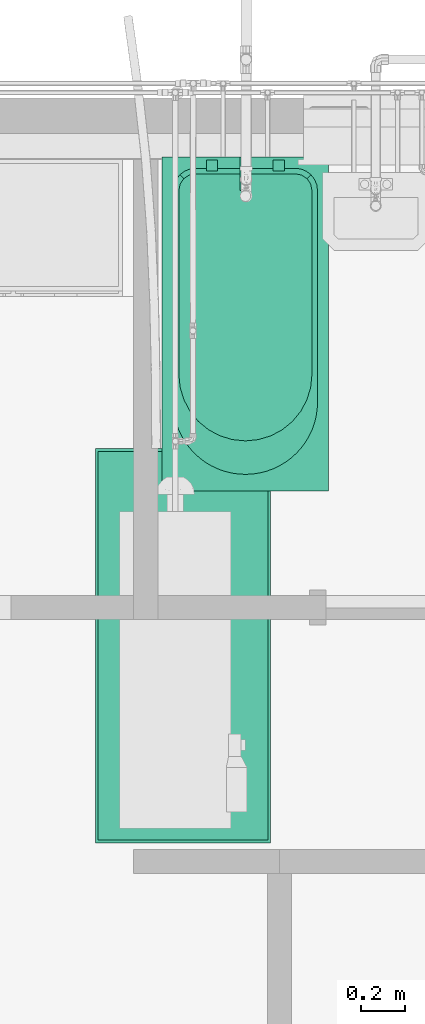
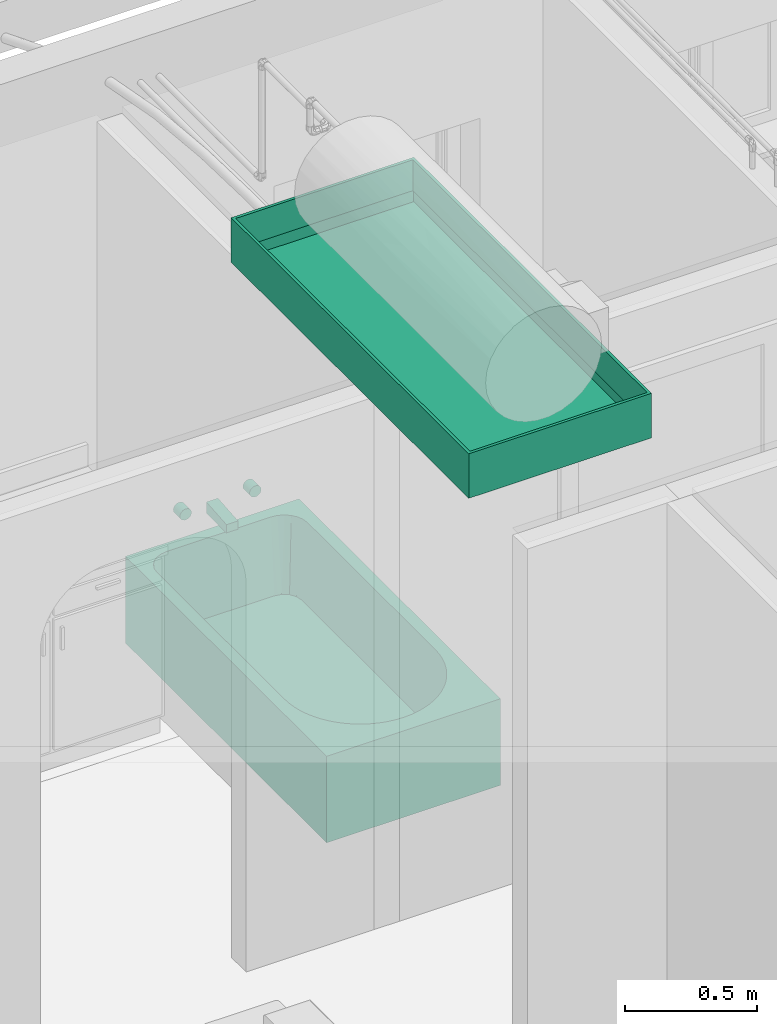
# One storey, part 31 of 41: 2 flow terminals.
"""IFC2X3 building model written with IfcOpenShell, lengths in millimetres."""

from ifc_helpers import new_model, entity, si_unit, converted_unit, derived_unit, direction, frame, origin, place, context, subcontext, project, spatial, faceted_brep, source, transform, mapped, element, save


model = new_model("IFC2X3")

# Units and contexts
model_context = context("Model", 3, precision=0.01, world=origin(), true_north=direction((6.12303176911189e-17, 1.0)))
body_context = subcontext(model_context, "Body", "Model", "MODEL_VIEW")
ifc_project = project(units=[si_unit("LENGTHUNIT", "METRE", prefix="MILLI"), si_unit("AREAUNIT", "SQUARE_METRE"), si_unit("VOLUMEUNIT", "CUBIC_METRE"), converted_unit("PLANEANGLEUNIT", "DEGREE", entity("IfcRatioMeasure", 0.0174532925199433), si_unit("PLANEANGLEUNIT", "RADIAN"), dimensions=[0, 0, 0, 0, 0, 0, 0]), si_unit("MASSUNIT", "GRAM", prefix="KILO"), derived_unit("MASSDENSITYUNIT", [(si_unit("MASSUNIT", "GRAM", prefix="KILO"), 1), (si_unit("LENGTHUNIT", "METRE"), -3)]), si_unit("TIMEUNIT", "SECOND"), si_unit("FREQUENCYUNIT", "HERTZ"), si_unit("THERMODYNAMICTEMPERATUREUNIT", "DEGREE_CELSIUS"), derived_unit("THERMALTRANSMITTANCEUNIT", [(si_unit("MASSUNIT", "GRAM", prefix="KILO"), 1), (si_unit("THERMODYNAMICTEMPERATUREUNIT", "KELVIN"), -1), (si_unit("TIMEUNIT", "SECOND"), -3)]), derived_unit("VOLUMETRICFLOWRATEUNIT", [(si_unit("LENGTHUNIT", "METRE"), 3), (si_unit("TIMEUNIT", "SECOND"), -1)]), si_unit("ELECTRICCURRENTUNIT", "AMPERE"), si_unit("ELECTRICVOLTAGEUNIT", "VOLT"), si_unit("POWERUNIT", "WATT"), si_unit("FORCEUNIT", "NEWTON", prefix="KILO"), si_unit("ILLUMINANCEUNIT", "LUX"), si_unit("LUMINOUSFLUXUNIT", "LUMEN"), si_unit("LUMINOUSINTENSITYUNIT", "CANDELA"), derived_unit("USERDEFINED", [(si_unit("MASSUNIT", "GRAM", prefix="KILO"), -1), (si_unit("LENGTHUNIT", "METRE"), -2), (si_unit("TIMEUNIT", "SECOND"), 3), (si_unit("LUMINOUSFLUXUNIT", "LUMEN"), 1)]), derived_unit("LINEARVELOCITYUNIT", [(si_unit("LENGTHUNIT", "METRE"), 1), (si_unit("TIMEUNIT", "SECOND"), -1)]), si_unit("PRESSUREUNIT", "PASCAL"), derived_unit("USERDEFINED", [(si_unit("LENGTHUNIT", "METRE"), -2), (si_unit("MASSUNIT", "GRAM", prefix="KILO"), 1), (si_unit("TIMEUNIT", "SECOND"), -2)])], contexts=[model_context])

# Site, building, storey, space
site_placement = place(None, origin())
site = spatial("IfcSite", under=ifc_project, at=site_placement, Name="Surface", CompositionType="ELEMENT")
building_placement = place(site_placement, origin())
building = spatial("IfcBuilding", under=site, at=building_placement, CompositionType="ELEMENT")
storey_placement = place(building_placement, frame((0.0, 0.0, 300.0)))
storey = spatial("IfcBuildingStorey", under=building, at=storey_placement, Name="F.F.L", CompositionType="ELEMENT", Elevation=300.0)
space_placement = place(storey_placement, origin())
space = spatial("IfcSpace", under=storey, at=space_placement, Name="3", CompositionType="ELEMENT", InteriorOrExteriorSpace="INTERNAL")

# Flow terminals
shared_shape_1 = source(origin(), body_context, "Body", "Brep", [
    faceted_brep([(189.304506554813, 337.064597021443, 50.799999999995), (200.025000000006, 341.505170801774, 50.799999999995), (209.230896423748, 348.56910357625, 50.799999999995), (216.294829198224, 357.774999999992, 50.799999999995), (220.735402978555, 368.495493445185, 50.799999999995), (222.250000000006, 380.0, 50.799999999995), (220.735402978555, 391.504506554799, 50.799999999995), (216.294829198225, 402.224999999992, 50.799999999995), (209.230896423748, 411.430896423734, 50.799999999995), (200.025000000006, 418.494829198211, 50.799999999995), (189.304506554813, 422.935402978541, 50.799999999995), (177.800000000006, 424.449999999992, 50.799999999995), (166.295493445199, 422.935402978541, 50.799999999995), (155.575000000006, 418.494829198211, 50.799999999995), (146.369103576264, 411.430896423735, 50.799999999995), (139.305170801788, 402.224999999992, 50.799999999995), (134.864597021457, 391.5045065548, 50.799999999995), (133.350000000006, 380.0, 50.799999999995), (134.864597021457, 368.495493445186, 50.799999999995), (139.305170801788, 357.774999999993, 50.799999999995), (146.369103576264, 348.56910357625, 50.799999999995), (155.575000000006, 341.505170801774, 50.799999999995), (166.295493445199, 337.064597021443, 50.799999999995), (177.800000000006, 335.549999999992, 50.799999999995), (177.800000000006, 424.449999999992, 0.0), (189.304506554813, 422.935402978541, 0.0), (200.025000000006, 418.494829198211, 0.0), (209.230896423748, 411.430896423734, 0.0), (216.294829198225, 402.224999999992, 0.0), (220.735402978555, 391.504506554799, 0.0), (222.250000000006, 380.0, 0.0), (220.735402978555, 368.495493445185, 0.0), (216.294829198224, 357.774999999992, 0.0), (209.230896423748, 348.56910357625, 0.0), (200.025000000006, 341.505170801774, 0.0), (189.304506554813, 337.064597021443, 0.0), (177.800000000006, 335.549999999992, 0.0), (166.295493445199, 337.064597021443, 0.0), (155.575000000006, 341.505170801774, 0.0), (146.369103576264, 348.56910357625, 0.0), (139.305170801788, 357.774999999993, 0.0), (134.864597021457, 368.495493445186, 0.0), (133.350000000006, 380.0, 0.0), (134.864597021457, 391.5045065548, 0.0), (139.305170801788, 402.224999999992, 0.0), (146.369103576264, 411.430896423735, 0.0), (155.575000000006, 418.494829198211, 0.0), (166.295493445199, 422.935402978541, 0.0)], [[[0, 1, 2, 3, 4, 5, 6, 7, 8, 9, 10, 11, 12, 13, 14, 15, 16, 17, 18, 19, 20, 21, 22, 23]], [[24, 25, 26, 27, 28, 29, 30, 31, 32, 33, 34, 35, 36, 37, 38, 39, 40, 41, 42, 43, 44, 45, 46, 47]], [[18, 17, 42, 41]], [[21, 38, 37, 22]], [[38, 21, 20, 39]], [[22, 37, 36, 23]], [[41, 40, 19, 18]], [[40, 39, 20, 19]], [[0, 35, 34, 1]], [[33, 2, 1, 34]], [[3, 32, 31, 4]], [[33, 32, 3, 2]], [[4, 31, 30, 5]], [[35, 0, 23, 36]], [[29, 6, 5, 30]], [[28, 7, 6, 29]], [[28, 27, 8, 7]], [[27, 26, 9, 8]], [[25, 10, 9, 26]], [[10, 25, 24, 11]], [[12, 47, 46, 13]], [[45, 14, 13, 46]], [[15, 44, 43, 16]], [[45, 44, 15, 14]], [[16, 43, 42, 17]], [[47, 12, 11, 24]]]),
    faceted_brep([(1525.0, 0.0, 400.0), (1373.27422315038, 171.156734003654, 400.0), (1351.57860255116, 147.219497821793, 400.0), (1392.51910984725, 197.105251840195, 400.0), (1327.64118947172, 125.524072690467, 400.0), (1301.69251508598, 106.279398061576, 400.0), (1273.98248017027, 89.6708112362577, 400.0), (1244.77794841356, 75.8582624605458, 400.0), (1409.12792319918, 224.815152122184, 400.0), (1422.94071067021, 254.019572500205, 400.0), (1433.82444706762, 284.437257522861, 400.0), (1441.67431565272, 315.775267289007, 400.0), (1446.41471758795, 347.73179862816, 400.0), (1448.0, 379.999091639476, 400.0), (1214.36017636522, 64.9747745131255, 400.0), (1183.02210477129, 57.1251616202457, 400.0), (1151.06553738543, 52.3850200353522, 400.0), (1118.80000000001, 50.7999999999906, 400.0), (0.0, 0.0, 400.0), (1525.0, 760.0, 400.0), (1446.41489563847, 412.266393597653, 400.0), (1441.6746699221, 444.222951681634, 400.0), (1433.82497391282, 475.561005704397, 400.0), (1422.9414046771, 505.978752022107, 400.0), (1409.12877724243, 535.183250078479, 400.0), (1392.52011516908, 562.893243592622, 400.0), (1373.27536945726, 588.841869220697, 400.0), (1351.57987812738, 612.77922660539, 400.0), (1327.64258130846, 634.474785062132, 400.0), (1301.69400902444, 653.719603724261, 400.0), (1273.98406105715, 670.328343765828, 400.0), (1244.77960026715, 684.14105332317, 400.0), (1214.36188255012, 695.024707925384, 400.0), (1183.02384817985, 702.874491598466, 400.0), (1151.06730062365, 707.614806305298, 400.0), (1118.80000000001, 709.199999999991, 400.0), (0.0, 760.0, 400.0), (152.400000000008, 709.199999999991, 400.0), (126.103985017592, 705.738063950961, 400.0), (101.600000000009, 695.588181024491, 400.0), (80.5579510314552, 679.442048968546, 400.0), (64.4118189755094, 658.399999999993, 400.0), (54.2619360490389, 633.896014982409, 400.0), (50.8000000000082, 607.599999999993, 400.0), (152.400000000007, 50.7999999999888, 400.0), (126.103985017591, 54.2619360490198, 400.0), (101.600000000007, 64.4118189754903, 400.0), (80.5579510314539, 80.5579510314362, 400.0), (64.4118189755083, 101.599999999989, 400.0), (54.2619360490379, 126.103985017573, 400.0), (50.8000000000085, 152.399999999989, 400.0), (200.025000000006, 418.494829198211, 0.0), (0.0, 760.0, 0.0), (209.230896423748, 411.430896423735, 0.0), (189.304506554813, 422.935402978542, 0.0), (177.800000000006, 424.449999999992, 0.0), (166.295493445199, 422.935402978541, 0.0), (155.575000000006, 418.494829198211, 0.0), (146.369103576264, 411.430896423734, 0.0), (139.305170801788, 402.224999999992, 0.0), (134.864597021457, 391.504506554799, 0.0), (133.350000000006, 380.0, 0.0), (0.0, 0.0, 0.0), (134.864597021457, 368.495493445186, 0.0), (139.305170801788, 357.774999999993, 0.0), (146.369103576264, 348.56910357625, 0.0), (155.575000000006, 341.505170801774, 0.0), (166.295493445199, 337.064597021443, 0.0), (177.800000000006, 335.549999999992, 0.0), (189.304506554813, 337.064597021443, 0.0), (200.025000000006, 341.505170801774, 0.0), (209.230896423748, 348.56910357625, 0.0), (1525.0, 0.0, 0.0), (216.294829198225, 357.774999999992, 0.0), (220.735402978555, 368.495493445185, 0.0), (222.250000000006, 380.0, 0.0), (1525.0, 760.0, 0.0), (220.735402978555, 391.5045065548, 0.0), (216.294829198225, 402.224999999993, 0.0), (1160.18223679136, 632.600468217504, 50.799999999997), (1160.18223679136, 127.399531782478, 50.799999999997), (1206.21904012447, 594.819040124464, 50.799999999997), (1107.65922675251, 99.3253980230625, 50.799999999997), (1107.65922675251, 660.67460197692, 50.799999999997), (1050.6684398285, 82.03743181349, 50.799999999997), (1050.6684398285, 677.962568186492, 50.799999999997), (991.400000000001, 76.1999999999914, 50.799999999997), (991.400000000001, 683.799999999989, 50.799999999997), (222.250000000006, 380.0, 50.799999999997), (220.735402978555, 391.5045065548, 50.799999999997), (216.294829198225, 402.224999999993, 50.799999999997), (152.400000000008, 683.799999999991, 50.799999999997), (209.230896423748, 411.430896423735, 50.799999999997), (200.025000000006, 418.494829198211, 50.799999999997), (189.304506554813, 422.935402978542, 50.799999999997), (76.2000000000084, 607.599999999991, 50.799999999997), (137.819761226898, 680.899810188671, 50.799999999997), (123.239522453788, 677.999620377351, 50.799999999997), (110.87899286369, 669.740578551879, 50.7999999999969), (98.5184632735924, 661.481536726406, 50.799999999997), (90.2594214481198, 649.121007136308, 50.7999999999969), (79.1001898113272, 622.180238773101, 50.799999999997), (82.0003796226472, 636.760477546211, 50.799999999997), (177.800000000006, 424.449999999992, 50.799999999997), (166.295493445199, 422.935402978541, 50.799999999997), (155.575000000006, 418.494829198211, 50.799999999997), (146.369103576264, 411.430896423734, 50.799999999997), (139.305170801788, 402.224999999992, 50.799999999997), (134.864597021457, 391.504506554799, 50.799999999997), (133.350000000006, 380.0, 50.799999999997), (76.2000000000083, 152.39999999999, 50.799999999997), (134.864597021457, 368.495493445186, 50.799999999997), (139.305170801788, 357.774999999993, 50.799999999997), (146.369103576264, 348.56910357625, 50.799999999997), (155.575000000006, 341.505170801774, 50.799999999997), (166.295493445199, 337.064597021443, 50.799999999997), (177.800000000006, 335.549999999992, 50.799999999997), (189.304506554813, 337.064597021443, 50.799999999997), (152.400000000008, 76.1999999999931, 50.799999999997), (137.8197612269, 79.1001898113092, 50.7999999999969), (123.23952245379, 82.0003796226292, 50.799999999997), (110.878992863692, 90.2594214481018, 50.799999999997), (98.5184632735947, 98.5184632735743, 50.799999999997), (79.1001898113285, 137.81976122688, 50.7999999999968), (90.2594214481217, 110.878992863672, 50.7999999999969), (82.0003796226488, 123.23952245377, 50.799999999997), (216.294829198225, 357.774999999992, 50.799999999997), (209.230896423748, 348.56910357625, 50.799999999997), (200.025000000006, 341.505170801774, 50.799999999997), (220.735402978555, 368.495493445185, 50.799999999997), (1206.21904012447, 165.180959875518, 50.799999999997), (1244.00046821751, 548.782236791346, 50.799999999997), (1244.00046821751, 211.217763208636, 50.799999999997), (1272.07460197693, 496.259226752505, 50.799999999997), (1272.07460197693, 263.740773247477, 50.799999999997), (1289.3625681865, 439.268439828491, 50.799999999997), (1289.3625681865, 320.731560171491, 50.799999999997), (1295.2, 380.0, 50.799999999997), (1243.63907909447, 634.214956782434, 225.39988343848), (1309.31558369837, 568.538414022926, 225.400201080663), (1161.72587719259, 677.99863835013, 225.400130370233), (1353.09882559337, 486.624984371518, 225.399762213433), (1067.35851454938, 698.944005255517, 259.000261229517), (1371.21894131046, 395.529073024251, 225.4003150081), (1289.61037566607, 167.45062994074, 225.40046513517), (1132.00192189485, 72.9846857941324, 225.400575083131), (1217.8120986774, 108.528196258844, 225.399497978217), (1329.42904150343, 231.186516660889, 214.212981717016), (1362.1144936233, 303.095803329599, 225.399647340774), (1055.10000000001, 63.499999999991, 225.399999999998)], [[[0, 1, 2]], [[1, 0, 3]], [[0, 2, 4]], [[4, 5, 0]], [[5, 6, 0]], [[0, 6, 7]], [[8, 3, 0]], [[9, 8, 0]], [[10, 9, 0]], [[11, 10, 0]], [[12, 11, 0]], [[0, 13, 12]], [[7, 14, 0]], [[15, 0, 14]], [[15, 16, 0]], [[16, 17, 0]], [[17, 18, 0]], [[13, 0, 19]], [[20, 13, 19]], [[21, 20, 19]], [[21, 19, 22]], [[23, 22, 19]], [[24, 23, 19]], [[19, 25, 24]], [[25, 19, 26]], [[26, 19, 27]], [[28, 27, 19]], [[28, 19, 29]], [[30, 29, 19]], [[19, 31, 30]], [[32, 31, 19]], [[32, 19, 33]], [[34, 33, 19]], [[35, 34, 19]], [[35, 19, 36]], [[36, 37, 35]], [[37, 36, 38]], [[39, 38, 36]], [[39, 36, 40]], [[40, 36, 41]], [[42, 41, 36]], [[43, 42, 36]], [[43, 36, 18]], [[44, 18, 17]], [[18, 44, 45]], [[18, 45, 46]], [[46, 47, 18]], [[47, 48, 18]], [[48, 49, 18]], [[49, 50, 18]], [[18, 50, 43]], [[51, 52, 53]], [[52, 51, 54]], [[55, 52, 54]], [[52, 55, 56]], [[52, 56, 57]], [[57, 58, 52]], [[58, 59, 52]], [[59, 60, 52]], [[52, 60, 61]], [[61, 62, 52]], [[61, 63, 62]], [[63, 64, 62]], [[65, 62, 64]], [[62, 65, 66]], [[66, 67, 62]], [[67, 68, 62]], [[62, 68, 69]], [[69, 70, 62]], [[71, 62, 70]], [[72, 62, 71]], [[71, 73, 72]], [[73, 74, 72]], [[74, 75, 72]], [[76, 72, 75]], [[75, 77, 76]], [[77, 78, 76]], [[78, 53, 76]], [[53, 52, 76]], [[19, 0, 72, 76]], [[36, 19, 76, 52]], [[18, 36, 52, 62]], [[0, 18, 62, 72]], [[79, 80, 81]], [[80, 79, 82]], [[79, 83, 82]], [[84, 82, 83]], [[85, 84, 83]], [[85, 86, 84]], [[85, 87, 86]], [[88, 86, 87]], [[87, 89, 88]], [[89, 87, 90]], [[87, 91, 90]], [[92, 90, 91]], [[93, 92, 91]], [[91, 94, 93]], [[91, 95, 94]], [[95, 91, 96]], [[95, 96, 97]], [[95, 97, 98]], [[95, 98, 99]], [[95, 99, 100]], [[100, 101, 95]], [[100, 102, 101]], [[94, 95, 103]], [[95, 104, 103]], [[95, 105, 104]], [[95, 106, 105]], [[95, 107, 106]], [[95, 108, 107]], [[109, 108, 95]], [[95, 110, 109]], [[110, 111, 109]], [[110, 112, 111]], [[112, 110, 113]], [[110, 114, 113]], [[114, 110, 115]], [[116, 115, 110]], [[110, 117, 116]], [[118, 117, 110]], [[110, 119, 118]], [[110, 120, 119]], [[110, 121, 120]], [[110, 122, 121]], [[122, 110, 123]], [[123, 124, 122]], [[123, 125, 124]], [[126, 118, 86]], [[127, 118, 126]], [[128, 118, 127]], [[118, 128, 117]], [[129, 86, 88]], [[86, 129, 126]], [[130, 81, 80]], [[131, 81, 130]], [[132, 131, 130]], [[131, 132, 133]], [[133, 132, 134]], [[135, 133, 134]], [[135, 134, 136]], [[135, 136, 137]], [[138, 28, 29]], [[131, 139, 81]], [[83, 140, 85]], [[139, 26, 27]], [[141, 133, 135]], [[24, 25, 139]], [[34, 35, 142]], [[33, 34, 142]], [[27, 138, 139]], [[137, 143, 135]], [[141, 22, 23]], [[21, 143, 20]], [[139, 141, 24]], [[130, 144, 132]], [[84, 145, 82]], [[141, 23, 24]], [[26, 139, 25]], [[146, 80, 82]], [[21, 141, 143]], [[28, 138, 27]], [[138, 79, 81]], [[140, 31, 32]], [[142, 87, 85]], [[13, 143, 12]], [[22, 141, 21]], [[142, 85, 140]], [[30, 31, 140]], [[30, 140, 138]], [[32, 33, 140]], [[29, 30, 138]], [[83, 79, 140]], [[2, 144, 4]], [[140, 79, 138]], [[7, 6, 146]], [[139, 138, 81]], [[3, 8, 147]], [[139, 133, 141]], [[139, 131, 133]], [[134, 147, 148]], [[143, 141, 135]], [[15, 145, 16]], [[33, 142, 140]], [[148, 136, 134]], [[143, 13, 20]], [[10, 148, 9]], [[1, 144, 2]], [[4, 146, 5]], [[147, 144, 3]], [[1, 3, 144]], [[4, 144, 146]], [[15, 14, 145]], [[149, 84, 86]], [[146, 145, 7]], [[145, 14, 7]], [[6, 5, 146]], [[17, 16, 149]], [[12, 143, 148]], [[148, 10, 11]], [[136, 143, 137]], [[143, 136, 148]], [[12, 148, 11]], [[8, 9, 147]], [[147, 134, 132]], [[147, 132, 144]], [[148, 147, 9]], [[144, 130, 80]], [[146, 144, 80]], [[145, 146, 82]], [[84, 149, 145]], [[145, 149, 16]], [[44, 17, 149, 86, 118]], [[49, 123, 50]], [[47, 122, 124]], [[48, 47, 124]], [[124, 125, 48]], [[48, 125, 49]], [[122, 47, 121]], [[46, 121, 47]], [[46, 120, 121]], [[119, 44, 118]], [[110, 50, 123]], [[120, 46, 45]], [[45, 44, 119]], [[49, 125, 123]], [[119, 120, 45]], [[95, 43, 50, 110]], [[38, 96, 37]], [[40, 99, 98]], [[39, 40, 98]], [[98, 97, 39]], [[39, 97, 38]], [[99, 40, 100]], [[41, 100, 40]], [[41, 102, 100]], [[101, 43, 95]], [[91, 37, 96]], [[102, 41, 42]], [[42, 43, 101]], [[38, 97, 96]], [[101, 102, 42]], [[87, 142, 35, 37, 91]], [[63, 61, 109, 111]], [[67, 66, 114, 115]], [[65, 113, 114, 66]], [[68, 67, 115, 116]], [[111, 112, 64, 63]], [[112, 113, 65, 64]], [[70, 69, 117, 128]], [[70, 128, 127, 71]], [[74, 73, 126, 129]], [[127, 126, 73, 71]], [[75, 74, 129, 88]], [[116, 117, 69, 68]], [[75, 88, 89, 77]], [[77, 89, 90, 78]], [[92, 53, 78, 90]], [[93, 51, 53, 92]], [[93, 94, 54, 51]], [[55, 54, 94, 103]], [[57, 56, 104, 105]], [[57, 105, 106, 58]], [[60, 59, 107, 108]], [[106, 107, 59, 58]], [[61, 60, 108, 109]], [[103, 104, 56, 55]]]),
    faceted_brep([(0.0, 354.599999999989, 476.200000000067), (152.400000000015, 354.599999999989, 476.200000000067), (152.400000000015, 354.599999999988, 514.300000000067), (0.0, 354.599999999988, 527.0), (0.0, 405.39999999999, 476.200000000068), (0.0, 405.39999999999, 527.0), (152.400000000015, 405.39999999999, 514.300000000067), (152.400000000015, 405.39999999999, 476.200000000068)], [[[0, 1, 2, 3]], [[4, 5, 6, 7]], [[1, 0, 4, 7]], [[2, 1, 7, 6]], [[3, 2, 6, 5]], [[0, 3, 5, 4]]]),
    faceted_brep([(63.5000000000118, 545.099999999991, 530.402954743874), (63.5000000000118, 550.360512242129, 534.439487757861), (63.5000000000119, 554.397045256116, 539.699999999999), (63.500000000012, 556.934515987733, 545.825996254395), (63.500000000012, 557.799999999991, 552.399999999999), (63.5000000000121, 556.934515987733, 558.974003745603), (63.5000000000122, 554.397045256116, 565.099999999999), (63.5000000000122, 550.360512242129, 570.360512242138), (63.5000000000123, 545.099999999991, 574.397045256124), (63.5000000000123, 538.974003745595, 576.934515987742), (63.5000000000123, 532.399999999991, 577.799999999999), (63.5000000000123, 525.825996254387, 576.934515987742), (63.5000000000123, 519.699999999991, 574.397045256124), (63.5000000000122, 514.439487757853, 570.360512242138), (63.5000000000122, 510.402954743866, 565.099999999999), (63.5000000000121, 507.865484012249, 558.974003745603), (63.500000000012, 507.0, 552.399999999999), (63.500000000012, 507.865484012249, 545.825996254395), (63.5000000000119, 510.402954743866, 539.699999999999), (63.5000000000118, 514.439487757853, 534.439487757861), (63.5000000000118, 519.699999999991, 530.402954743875), (63.5000000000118, 525.825996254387, 527.865484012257), (63.5000000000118, 532.399999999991, 527.0), (63.5000000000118, 538.974003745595, 527.865484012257), (12.7000000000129, 532.399999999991, 577.8), (12.7000000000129, 538.974003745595, 576.934515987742), (12.7000000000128, 545.099999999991, 574.397045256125), (12.7000000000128, 550.360512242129, 570.360512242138), (12.7000000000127, 554.397045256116, 565.1), (12.7000000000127, 556.934515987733, 558.974003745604), (12.7000000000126, 557.799999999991, 552.4), (12.7000000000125, 556.934515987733, 545.825996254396), (12.7000000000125, 554.397045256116, 539.7), (12.7000000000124, 550.360512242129, 534.439487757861), (12.7000000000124, 545.099999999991, 530.402954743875), (12.7000000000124, 538.974003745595, 527.865484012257), (12.7000000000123, 532.399999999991, 527.0), (12.7000000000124, 525.825996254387, 527.865484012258), (12.7000000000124, 519.699999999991, 530.402954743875), (12.7000000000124, 514.439487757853, 534.439487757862), (12.7000000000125, 510.402954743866, 539.7), (12.7000000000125, 507.865484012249, 545.825996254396), (12.7000000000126, 507.0, 552.4), (12.7000000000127, 507.865484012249, 558.974003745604), (12.7000000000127, 510.402954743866, 565.1), (12.7000000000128, 514.439487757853, 570.360512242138), (12.7000000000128, 519.699999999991, 574.397045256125), (12.7000000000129, 525.825996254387, 576.934515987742)], [[[0, 1, 2, 3, 4, 5, 6, 7, 8, 9, 10, 11, 12, 13, 14, 15, 16, 17, 18, 19, 20, 21, 22, 23]], [[24, 25, 26, 27, 28, 29, 30, 31, 32, 33, 34, 35, 36, 37, 38, 39, 40, 41, 42, 43, 44, 45, 46, 47]], [[17, 41, 40, 18]], [[39, 19, 18, 40]], [[20, 38, 37, 21]], [[39, 38, 20, 19]], [[21, 37, 36, 22]], [[41, 17, 16, 42]], [[23, 35, 34, 0]], [[33, 1, 0, 34]], [[2, 32, 31, 3]], [[33, 32, 2, 1]], [[3, 31, 30, 4]], [[35, 23, 22, 36]], [[29, 5, 4, 30]], [[28, 6, 5, 29]], [[9, 25, 24, 10]], [[27, 7, 6, 28]], [[26, 8, 7, 27]], [[26, 25, 9, 8]], [[11, 47, 46, 12]], [[45, 13, 12, 46]], [[14, 44, 43, 15]], [[45, 44, 14, 13]], [[15, 43, 42, 16]], [[47, 11, 10, 24]]]),
    faceted_brep([(63.500000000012, 252.134515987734, 545.825996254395), (63.500000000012, 253.0, 552.399999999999), (63.5000000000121, 252.134515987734, 558.974003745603), (63.5000000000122, 249.597045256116, 565.099999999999), (63.5000000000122, 245.56051224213, 570.360512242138), (63.5000000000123, 240.299999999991, 574.397045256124), (63.5000000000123, 234.174003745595, 576.934515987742), (63.5000000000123, 227.599999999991, 577.799999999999), (63.5000000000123, 221.025996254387, 576.934515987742), (63.5000000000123, 214.899999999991, 574.397045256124), (63.5000000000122, 209.639487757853, 570.360512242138), (63.5000000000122, 205.602954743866, 565.1), (63.5000000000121, 203.065484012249, 558.974003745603), (63.500000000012, 202.199999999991, 552.4), (63.500000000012, 203.065484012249, 545.825996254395), (63.5000000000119, 205.602954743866, 539.7), (63.5000000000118, 209.639487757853, 534.439487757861), (63.5000000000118, 214.899999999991, 530.402954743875), (63.5000000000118, 221.025996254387, 527.865484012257), (63.5000000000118, 227.599999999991, 527.0), (63.5000000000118, 234.174003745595, 527.865484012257), (63.5000000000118, 240.299999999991, 530.402954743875), (63.5000000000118, 245.560512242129, 534.439487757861), (63.5000000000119, 249.597045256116, 539.699999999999), (12.7000000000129, 227.599999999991, 577.8), (12.7000000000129, 234.174003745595, 576.934515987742), (12.7000000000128, 240.299999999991, 574.397045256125), (12.7000000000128, 245.56051224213, 570.360512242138), (12.7000000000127, 249.597045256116, 565.1), (12.7000000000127, 252.134515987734, 558.974003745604), (12.7000000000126, 253.0, 552.4), (12.7000000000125, 252.134515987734, 545.825996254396), (12.7000000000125, 249.597045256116, 539.7), (12.7000000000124, 245.560512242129, 534.439487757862), (12.7000000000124, 240.299999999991, 530.402954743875), (12.7000000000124, 234.174003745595, 527.865484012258), (12.7000000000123, 227.599999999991, 527.0), (12.7000000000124, 221.025996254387, 527.865484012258), (12.7000000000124, 214.899999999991, 530.402954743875), (12.7000000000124, 209.639487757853, 534.439487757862), (12.7000000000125, 205.602954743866, 539.7), (12.7000000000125, 203.065484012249, 545.825996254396), (12.7000000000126, 202.199999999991, 552.4), (12.7000000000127, 203.065484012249, 558.974003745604), (12.7000000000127, 205.602954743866, 565.1), (12.7000000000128, 209.639487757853, 570.360512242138), (12.7000000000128, 214.899999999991, 574.397045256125), (12.7000000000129, 221.025996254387, 576.934515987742)], [[[0, 1, 2, 3, 4, 5, 6, 7, 8, 9, 10, 11, 12, 13, 14, 15, 16, 17, 18, 19, 20, 21, 22, 23]], [[24, 25, 26, 27, 28, 29, 30, 31, 32, 33, 34, 35, 36, 37, 38, 39, 40, 41, 42, 43, 44, 45, 46, 47]], [[41, 40, 15, 14]], [[42, 41, 14, 13]], [[38, 37, 18, 17]], [[39, 38, 17, 16]], [[40, 39, 16, 15]], [[36, 19, 18, 37]], [[34, 33, 22, 21]], [[35, 34, 21, 20]], [[31, 30, 1, 0]], [[32, 31, 0, 23]], [[33, 32, 23, 22]], [[35, 20, 19, 36]], [[4, 3, 28, 27]], [[3, 2, 29, 28]], [[25, 6, 5, 26]], [[27, 26, 5, 4]], [[24, 7, 6, 25]], [[1, 30, 29, 2]], [[46, 45, 10, 9]], [[47, 46, 9, 8]], [[43, 42, 13, 12]], [[44, 43, 12, 11]], [[45, 44, 11, 10]], [[47, 8, 7, 24]]]),
])
flow_terminal_1_placement = place(space_placement, frame((-4456.8751700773, 10555.8400891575, 3.53553390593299), z_axis=(0.0, 0.0, 1.0), x_axis=(0.0, -1.0, 0.0)))
element("IfcFlowTerminal", 1, at=flow_terminal_1_placement, inside=space, Name="M_Bath Tub:1525 mmx760 mm - Public", ObjectType="1525 mmx760 mm - Public", context=body_context, shape_type="MappedRepresentation", body=[
    mapped(shared_shape_1, transform((0.0, 0.0, 0.0), scale=1.0)),
])
shared_shape_2 = source(origin(), body_context, "Body", "Brep", [
    faceted_brep([(400.0, 0.0, 206.175000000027), (-400.0, 0.0, 206.175000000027), (-400.0, -1800.0, 206.175000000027), (400.0, -1800.0, 206.175000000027), (387.300000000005, -12.7000000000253, 206.175000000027), (387.300000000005, -1787.30000000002, 206.175000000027), (-387.299999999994, -1787.30000000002, 206.175000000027), (-387.299999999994, -12.7000000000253, 206.175000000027), (400.0, 0.0, 63.030976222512), (400.0, -1800.0, 63.030976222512), (-400.0, -1800.0, 63.030976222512), (-400.0, 0.0, 63.030976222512), (387.300000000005, -12.7000000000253, 63.030976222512), (-387.299999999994, -12.7000000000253, 63.030976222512), (-387.299999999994, -1787.30000000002, 63.030976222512), (387.300000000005, -1787.30000000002, 63.030976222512)], [[[0, 1, 2, 3], [4, 5, 6, 7]], [[8, 9, 10, 11], [12, 13, 14, 15]], [[1, 0, 8, 11]], [[2, 1, 11, 10]], [[3, 2, 10, 9]], [[0, 3, 9, 8]], [[5, 4, 12, 15]], [[6, 5, 15, 14]], [[7, 6, 14, 13]], [[4, 7, 13, 12]]]),
    faceted_brep([(400.0, 0.0, 65.475000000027), (-400.0, 0.0, 65.475000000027), (-400.0, -1800.0, 65.475000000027), (400.0, -1800.0, 65.475000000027), (396.825000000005, -3.1750000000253, 65.475000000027), (396.825000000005, -1796.82500000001, 65.475000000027), (-396.82499999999, -1796.82500000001, 65.475000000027), (-396.82499999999, -3.17500000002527, 65.475000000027), (400.0, 0.0, 0.0), (400.0, -1800.0, 0.0), (-400.0, -1800.0, 0.0), (-400.0, 0.0, 0.0), (396.825000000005, -3.1750000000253, 3.1749999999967), (396.825000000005, -1796.82500000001, 3.1749999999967), (-396.82499999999, -1796.82500000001, 3.1749999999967), (-396.82499999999, -3.17500000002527, 3.1749999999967)], [[[0, 1, 2, 3], [4, 5, 6, 7]], [[8, 9, 10, 11]], [[1, 0, 8, 11]], [[2, 1, 11, 10]], [[3, 2, 10, 9]], [[0, 3, 9, 8]], [[5, 4, 12, 13]], [[6, 5, 13, 14]], [[7, 6, 14, 15]], [[4, 7, 15, 12]], [[13, 12, 15, 14]]]),
])
flow_terminal_2_placement = place(storey_placement, frame((-4361.87517007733, 9225.8400891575, 2676.20883643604)))
element("IfcFlowTerminal", 2, at=flow_terminal_2_placement, inside=storey, Name="M_Sink - Work:Retention tray", ObjectType="Retention tray", context=body_context, shape_type="MappedRepresentation", body=[
    mapped(shared_shape_2, transform((0.0, 0.0, 0.0), scale=1.0)),
])

save(model, "model.ifc")
